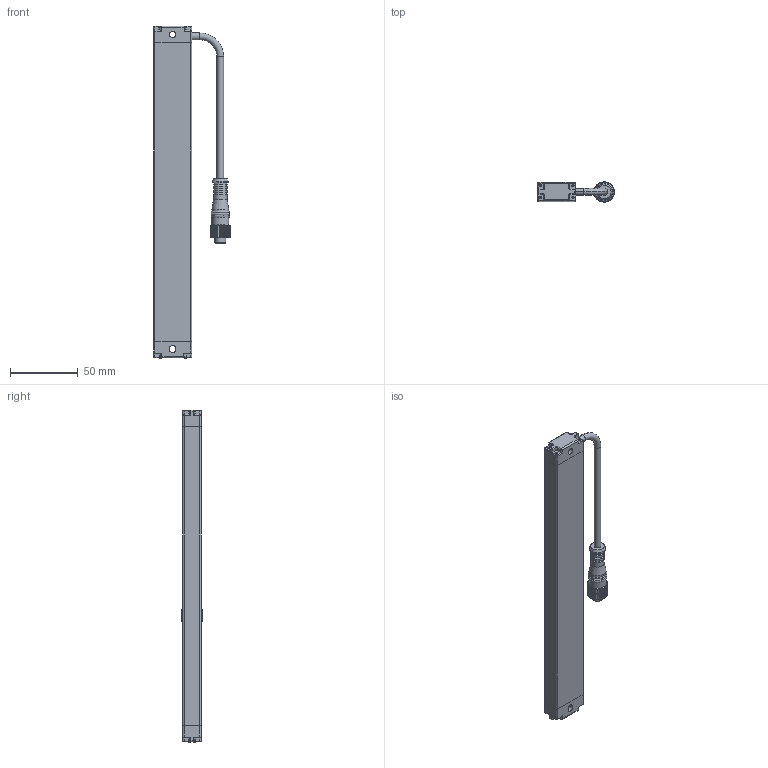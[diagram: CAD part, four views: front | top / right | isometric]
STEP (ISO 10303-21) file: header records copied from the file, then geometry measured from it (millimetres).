
FILE_DESCRIPTION((''),'2;1');
FILE_NAME('HC-1020_ASM','2022-12-22T',('Administrator'),(''),'PRO/ENGINEER BY PARAMETRIC TECHNOLOGY CORPORATION, 2010280','PRO/ENGINEER BY PARAMETRIC TECHNOLOGY CORPORATION, 2010280','');
FILE_SCHEMA(('AUTOMOTIVE_DESIGN_CC2 { 1 2 10303 214 -1 1 5 2 }'));
Length unit declared in the file: millimetre
Products named in the file (8): HC-1020-SHELL; HC-1020-PCB_; 1020-LED-SMT; HC-1020-WINDOWS_; HC-1020-LEFT_; HC-1020-RIGHT_; HC-1020-LINE_; HC-1020_ASM
Assembly tree (16 placements, depth 2):
  HC-1020_ASM
    HC-1020-SHELL
    HC-1020-PCB_
    1020-LED-SMT  x10
    HC-1020-WINDOWS_
    HC-1020-LEFT_
    HC-1020-RIGHT_
    HC-1020-LINE_
Bounding box: 56.68 x 14.97 x 244.7 mm (x, y, z)
Volume: 50572.2 mm3; surface area: 65229.7 mm2
Topology: 17 solids, 17 shells, 666 faces, 1714 edges, 1073 vertices
Faces by surface type: plane 312, cylinder 274, bspline 28, torus 25, sphere 20, cone 7
Entity records: 22108 total; most frequent: CARTESIAN_POINT 5759, DIRECTION 2825, ORIENTED_EDGE 2776, EDGE_CURVE 1388, AXIS2_PLACEMENT_3D 1027, PRESENTATION_STYLE_ASSIGNMENT 968, STYLED_ITEM 968, CURVE_STYLE 962
